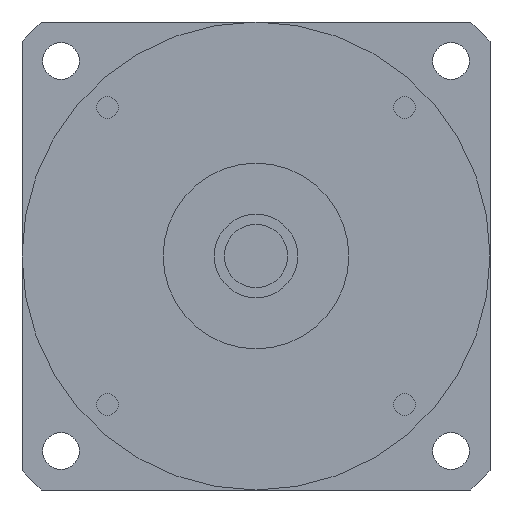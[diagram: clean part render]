
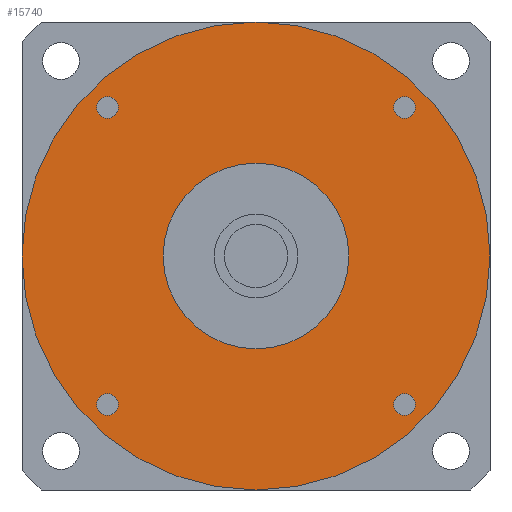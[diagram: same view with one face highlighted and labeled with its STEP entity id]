
A CAD part, left-side view. The second image highlights one B-rep face of the part: STEP entity #15740.
In plain terms, the highlighted planar face has unit normal (-1, 0, 0) as drawn and (0, 0, -1) by its records, which use the part's own axes.
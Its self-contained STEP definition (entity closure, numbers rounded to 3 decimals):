
#14620=CARTESIAN_POINT('',(-70.,0.,-59.701));
#14630=VERTEX_POINT('',#14620);
#14660=CARTESIAN_POINT('',(0.,0.,
-59.701));
#14670=DIRECTION('',(0.,0.,-1.));
#14680=DIRECTION('',(0.,-1.,0.));
#14690=AXIS2_PLACEMENT_3D('',#14660,#14670,#14680);
#14700=CIRCLE('',#14690,70.);
#14710=CARTESIAN_POINT('',(70.,0.,-59.701));
#14720=VERTEX_POINT('',#14710);
#14730=EDGE_CURVE('',#14630,#14720,#14700,.T.);
#14850=CARTESIAN_POINT('',(0.,0.,
-59.701));
#14860=DIRECTION('',(0.,0.,-1.));
#14870=DIRECTION('',(1.,0.,0.));
#14880=AXIS2_PLACEMENT_3D('',#14850,#14860,#14870);
#14890=PLANE('',#14880);
#14900=CARTESIAN_POINT('',(44.449,44.449,-59.701));
#14910=DIRECTION('',(0.,0.,-1.));
#14920=DIRECTION('',(0.,1.,0.));
#14930=AXIS2_PLACEMENT_3D('',#14900,#14910,#14920);
#14940=CIRCLE('',#14930,3.25);
#14950=CARTESIAN_POINT('',(44.449,47.699,-59.701));
#14960=VERTEX_POINT('',#14950);
#14970=CARTESIAN_POINT('',(44.449,41.199,-59.701));
#14980=VERTEX_POINT('',#14970);
#14990=EDGE_CURVE('',#14960,#14980,#14940,.T.);
#15000=ORIENTED_EDGE('',*,*,#14990,.F.);
#15010=EDGE_CURVE('',#14980,#14960,#14940,.T.);
#15020=ORIENTED_EDGE('',*,*,#15010,.F.);
#15030=EDGE_LOOP('',(#15020,#15000));
#15040=FACE_BOUND('',#15030,.T.);
#15050=CARTESIAN_POINT('',(-44.449,44.449,-59.701));
#15060=DIRECTION('',(0.,0.,-1.));
#15070=DIRECTION('',(-1.,0.,0.));
#15080=AXIS2_PLACEMENT_3D('',#15050,#15060,#15070);
#15090=CIRCLE('',#15080,3.25);
#15100=CARTESIAN_POINT('',(-47.699,44.449,-59.701));
#15110=VERTEX_POINT('',#15100);
#15120=CARTESIAN_POINT('',(-41.199,44.449,-59.701));
#15130=VERTEX_POINT('',#15120);
#15140=EDGE_CURVE('',#15110,#15130,#15090,.T.);
#15150=ORIENTED_EDGE('',*,*,#15140,.F.);
#15160=EDGE_CURVE('',#15130,#15110,#15090,.T.);
#15170=ORIENTED_EDGE('',*,*,#15160,.F.);
#15180=EDGE_LOOP('',(#15170,#15150));
#15190=FACE_BOUND('',#15180,.T.);
#15200=CARTESIAN_POINT('',(-44.449,-44.449,-59.701))
;
#15210=DIRECTION('',(0.,0.,-1.));
#15220=DIRECTION('',(0.,-1.,0.));
#15230=AXIS2_PLACEMENT_3D('',#15200,#15210,#15220);
#15240=CIRCLE('',#15230,3.25);
#15250=CARTESIAN_POINT('',(-44.449,-47.699,-59.701))
;
#15260=VERTEX_POINT('',#15250);
#15270=CARTESIAN_POINT('',(-44.449,-41.199,-59.701))
;
#15280=VERTEX_POINT('',#15270);
#15290=EDGE_CURVE('',#15260,#15280,#15240,.T.);
#15300=ORIENTED_EDGE('',*,*,#15290,.F.);
#15310=EDGE_CURVE('',#15280,#15260,#15240,.T.);
#15320=ORIENTED_EDGE('',*,*,#15310,.F.);
#15330=EDGE_LOOP('',(#15320,#15300));
#15340=FACE_BOUND('',#15330,.T.);
#15350=CARTESIAN_POINT('',(0.,0.,
-59.701));
#15360=DIRECTION('',(0.,0.,-1.));
#15370=DIRECTION('',(0.,1.,0.));
#15380=AXIS2_PLACEMENT_3D('',#15350,#15360,#15370);
#15390=CIRCLE('',#15380,27.76);
#15400=CARTESIAN_POINT('',(0.,27.76,-59.701));
#15410=VERTEX_POINT('',#15400);
#15420=CARTESIAN_POINT('',(0.,-27.76,-59.701));
#15430=VERTEX_POINT('',#15420);
#15440=EDGE_CURVE('',#15410,#15430,#15390,.T.);
#15450=ORIENTED_EDGE('',*,*,#15440,.F.);
#15460=EDGE_CURVE('',#15430,#15410,#15390,.T.);
#15470=ORIENTED_EDGE('',*,*,#15460,.F.);
#15480=EDGE_LOOP('',(#15470,#15450));
#15490=FACE_BOUND('',#15480,.T.);
#15500=CARTESIAN_POINT('',(44.449,-44.449,-59.701));
#15510=DIRECTION('',(0.,0.,-1.));
#15520=DIRECTION('',(1.,0.,0.));
#15530=AXIS2_PLACEMENT_3D('',#15500,#15510,#15520);
#15540=CIRCLE('',#15530,3.25);
#15550=CARTESIAN_POINT('',(47.699,-44.449,-59.701));
#15560=VERTEX_POINT('',#15550);
#15570=CARTESIAN_POINT('',(41.199,-44.449,-59.701));
#15580=VERTEX_POINT('',#15570);
#15590=EDGE_CURVE('',#15560,#15580,#15540,.T.);
#15600=ORIENTED_EDGE('',*,*,#15590,.F.);
#15610=EDGE_CURVE('',#15580,#15560,#15540,.T.);
#15620=ORIENTED_EDGE('',*,*,#15610,.F.);
#15630=EDGE_LOOP('',(#15620,#15600));
#15640=FACE_BOUND('',#15630,.T.);
#15650=ORIENTED_EDGE('',*,*,#14730,.T.);
#15660=CARTESIAN_POINT('',(0.,-70.,-59.701));
#15670=VERTEX_POINT('',#15660);
#15680=EDGE_CURVE('',#15670,#14630,#14700,.T.);
#15690=ORIENTED_EDGE('',*,*,#15680,.T.);
#15700=EDGE_CURVE('',#14720,#15670,#14700,.T.);
#15710=ORIENTED_EDGE('',*,*,#15700,.T.);
#15720=EDGE_LOOP('',(#15710,#15690,#15650));
#15730=FACE_OUTER_BOUND('',#15720,.T.);
#15740=ADVANCED_FACE('',(#15040,#15190,#15340,#15490,#15640,#15730),
#14890,.T.);
